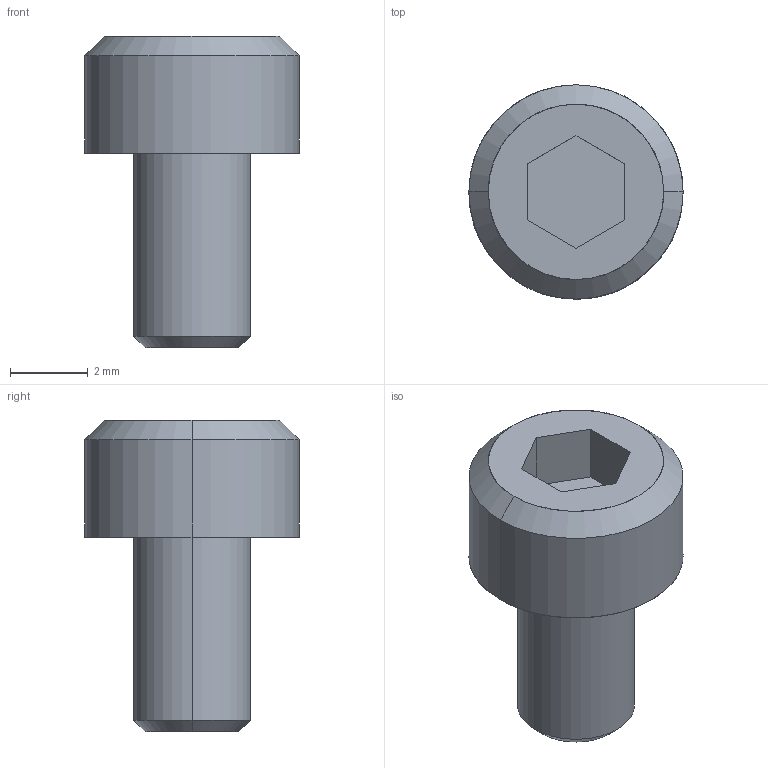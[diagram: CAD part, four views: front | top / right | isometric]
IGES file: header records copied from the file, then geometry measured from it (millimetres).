
Global section: file name: E:\UnigraphicsGraphicData\MISUMI_PRESS-PARTS\IGES\3d_cb3-5_00439_r00.igs; native system: NX V5.0; preprocessor: UGS NX IGES V5.0; author: MISUMI; date: 20110105.160147; units: millimetre
Bounding box: 5.5 x 5.5 x 8 mm (x, y, z)
Surface area: 152.4 mm2 (no closed solid volume)
Topology: 0 solids, 0 shells, 18 faces, 100 edges, 100 vertices
Faces by surface type: bspline 18
